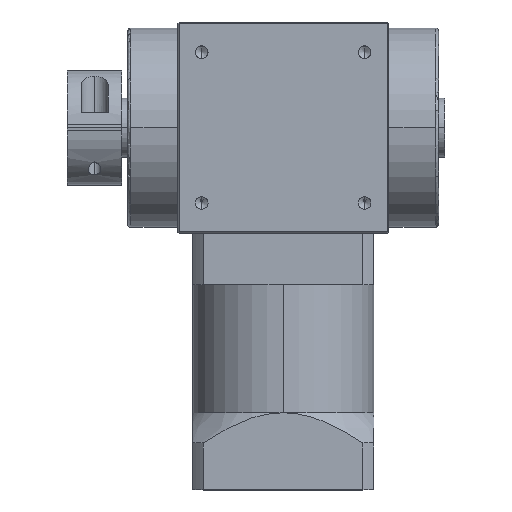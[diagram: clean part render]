
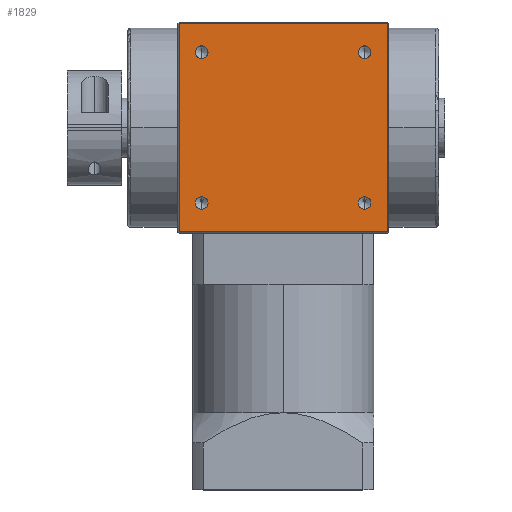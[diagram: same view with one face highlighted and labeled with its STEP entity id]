
A CAD part, top view. The second image highlights one B-rep face of the part: STEP entity #1829.
In plain terms, the highlighted planar face has unit normal (0, 0, 1).
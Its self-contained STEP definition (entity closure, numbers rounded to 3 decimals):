
#94 = VERTEX_POINT ( 'NONE', #9694 ) ;
#278 = CIRCLE ( 'NONE', #10368, 2.1 ) ;
#430 = VECTOR ( 'NONE', #11035, 1000. ) ;
#514 = VERTEX_POINT ( 'NONE', #6588 ) ;
#603 = DIRECTION ( 'NONE',  ( 1., 0., 0. ) ) ;
#635 = FACE_BOUND ( 'NONE', #8337, .T. ) ;
#678 = EDGE_CURVE ( 'NONE', #6300, #8077, #1239, .T. ) ;
#746 = ORIENTED_EDGE ( 'NONE', *, *, #678, .T. ) ;
#778 = VERTEX_POINT ( 'NONE', #10912 ) ;
#821 = CIRCLE ( 'NONE', #6997, 2.1 ) ;
#1104 = DIRECTION ( 'NONE',  ( 0., 0., 1. ) ) ;
#1195 = DIRECTION ( 'NONE',  ( 0., 0., -1. ) ) ;
#1239 = LINE ( 'NONE', #2503, #1570 ) ;
#1293 = FACE_BOUND ( 'NONE', #4619, .T. ) ;
#1461 = DIRECTION ( 'NONE',  ( 0., 0., 1. ) ) ;
#1570 = VECTOR ( 'NONE', #2571, 1000. ) ;
#1829 = ADVANCED_FACE ( 'NONE', ( #3618, #7235, #635, #1293, #3130 ), #7162, .F. ) ;
#2028 = CARTESIAN_POINT ( 'NONE',  ( 27., -25., 35. ) ) ;
#2260 = CARTESIAN_POINT ( 'NONE',  ( -27., 22.9, 35. ) ) ;
#2390 = EDGE_CURVE ( 'NONE', #94, #514, #5365, .T. ) ;
#2444 = CIRCLE ( 'NONE', #7335, 2.1 ) ;
#2503 = CARTESIAN_POINT ( 'NONE',  ( 34.5, 0., 35. ) ) ;
#2520 = VECTOR ( 'NONE', #3705, 1000. ) ;
#2571 = DIRECTION ( 'NONE',  ( 0., 1., 0. ) ) ;
#2650 = VERTEX_POINT ( 'NONE', #10806 ) ;
#2684 = ORIENTED_EDGE ( 'NONE', *, *, #3021, .F. ) ;
#2740 = EDGE_CURVE ( 'NONE', #778, #6300, #7420, .T. ) ;
#2766 = CIRCLE ( 'NONE', #4014, 2.1 ) ;
#2847 = EDGE_LOOP ( 'NONE', ( #746, #5522, #3287, #3300 ) ) ;
#2851 = CARTESIAN_POINT ( 'NONE',  ( -34.5, 0., 35. ) ) ;
#2921 = DIRECTION ( 'NONE',  ( 0., -1., 0. ) ) ;
#3021 = EDGE_CURVE ( 'NONE', #514, #94, #2444, .T. ) ;
#3130 = FACE_BOUND ( 'NONE', #7005, .T. ) ;
#3169 = ORIENTED_EDGE ( 'NONE', *, *, #10827, .F. ) ;
#3204 = CARTESIAN_POINT ( 'NONE',  ( 0., -34.5, 35. ) ) ;
#3287 = ORIENTED_EDGE ( 'NONE', *, *, #9524, .T. ) ;
#3300 = ORIENTED_EDGE ( 'NONE', *, *, #2740, .T. ) ;
#3302 = CARTESIAN_POINT ( 'NONE',  ( 27., -27.1, 35. ) ) ;
#3618 = FACE_OUTER_BOUND ( 'NONE', #2847, .T. ) ;
#3652 = CARTESIAN_POINT ( 'NONE',  ( -27., 27.1, 35. ) ) ;
#3705 = DIRECTION ( 'NONE',  ( 0., -1., 0. ) ) ;
#4014 = AXIS2_PLACEMENT_3D ( 'NONE', #9525, #4327, #10389 ) ;
#4226 = DIRECTION ( 'NONE',  ( 0., 0., 1. ) ) ;
#4327 = DIRECTION ( 'NONE',  ( 0., 0., 1. ) ) ;
#4380 = EDGE_LOOP ( 'NONE', ( #3169, #7923 ) ) ;
#4413 = CARTESIAN_POINT ( 'NONE',  ( -27., 25., 35. ) ) ;
#4506 = CARTESIAN_POINT ( 'NONE',  ( 27., -25., 35. ) ) ;
#4579 = CARTESIAN_POINT ( 'NONE',  ( -27., -25., 35. ) ) ;
#4619 = EDGE_LOOP ( 'NONE', ( #6538, #2684 ) ) ;
#4961 = CARTESIAN_POINT ( 'NONE',  ( 27., 22.9, 35. ) ) ;
#4966 = CIRCLE ( 'NONE', #5341, 2.1 ) ;
#5022 = AXIS2_PLACEMENT_3D ( 'NONE', #6363, #1195, #7223 ) ;
#5024 = LINE ( 'NONE', #6722, #430 ) ;
#5088 = EDGE_CURVE ( 'NONE', #8077, #7497, #5024, .T. ) ;
#5226 = EDGE_CURVE ( 'NONE', #8079, #10773, #9635, .T. ) ;
#5269 = DIRECTION ( 'NONE',  ( 0., -1., 0. ) ) ;
#5299 = ORIENTED_EDGE ( 'NONE', *, *, #7120, .F. ) ;
#5341 = AXIS2_PLACEMENT_3D ( 'NONE', #4506, #10577, #5361 ) ;
#5361 = DIRECTION ( 'NONE',  ( 0., -1., 0. ) ) ;
#5365 = CIRCLE ( 'NONE', #8825, 2.1 ) ;
#5375 = VECTOR ( 'NONE', #603, 1000. ) ;
#5425 = ORIENTED_EDGE ( 'NONE', *, *, #6372, .F. ) ;
#5444 = DIRECTION ( 'NONE',  ( 0., -1., 0. ) ) ;
#5522 = ORIENTED_EDGE ( 'NONE', *, *, #5088, .T. ) ;
#6275 = CARTESIAN_POINT ( 'NONE',  ( 27., 25., 35. ) ) ;
#6300 = VERTEX_POINT ( 'NONE', #7995 ) ;
#6363 = CARTESIAN_POINT ( 'NONE',  ( 0., 0., 35. ) ) ;
#6372 = EDGE_CURVE ( 'NONE', #2650, #8226, #821, .T. ) ;
#6538 = ORIENTED_EDGE ( 'NONE', *, *, #2390, .F. ) ;
#6588 = CARTESIAN_POINT ( 'NONE',  ( -27., -22.9, 35. ) ) ;
#6629 = CARTESIAN_POINT ( 'NONE',  ( -27., 25., 35. ) ) ;
#6722 = CARTESIAN_POINT ( 'NONE',  ( 0., 34.5, 35. ) ) ;
#6732 = CIRCLE ( 'NONE', #9418, 2.1 ) ;
#6967 = EDGE_CURVE ( 'NONE', #9327, #7474, #4966, .T. ) ;
#6997 = AXIS2_PLACEMENT_3D ( 'NONE', #6275, #1104, #7142 ) ;
#7005 = EDGE_LOOP ( 'NONE', ( #7388, #5299 ) ) ;
#7085 = LINE ( 'NONE', #2851, #2520 ) ;
#7120 = EDGE_CURVE ( 'NONE', #7474, #9327, #6732, .T. ) ;
#7142 = DIRECTION ( 'NONE',  ( 0., -1., 0. ) ) ;
#7162 = PLANE ( 'NONE',  #5022 ) ;
#7223 = DIRECTION ( 'NONE',  ( -1., 0., 0. ) ) ;
#7235 = FACE_BOUND ( 'NONE', #4380, .T. ) ;
#7335 = AXIS2_PLACEMENT_3D ( 'NONE', #9408, #4226, #10277 ) ;
#7388 = ORIENTED_EDGE ( 'NONE', *, *, #6967, .F. ) ;
#7420 = LINE ( 'NONE', #3204, #5375 ) ;
#7474 = VERTEX_POINT ( 'NONE', #10723 ) ;
#7487 = DIRECTION ( 'NONE',  ( 0., -1., 0. ) ) ;
#7497 = VERTEX_POINT ( 'NONE', #10787 ) ;
#7923 = ORIENTED_EDGE ( 'NONE', *, *, #5226, .F. ) ;
#7995 = CARTESIAN_POINT ( 'NONE',  ( 34.5, -34.5, 35. ) ) ;
#8068 = DIRECTION ( 'NONE',  ( 0., 0., 1. ) ) ;
#8077 = VERTEX_POINT ( 'NONE', #10477 ) ;
#8079 = VERTEX_POINT ( 'NONE', #3652 ) ;
#8226 = VERTEX_POINT ( 'NONE', #4961 ) ;
#8337 = EDGE_LOOP ( 'NONE', ( #10270, #5425 ) ) ;
#8825 = AXIS2_PLACEMENT_3D ( 'NONE', #4579, #10644, #5444 ) ;
#9141 = AXIS2_PLACEMENT_3D ( 'NONE', #4413, #10478, #5269 ) ;
#9327 = VERTEX_POINT ( 'NONE', #3302 ) ;
#9408 = CARTESIAN_POINT ( 'NONE',  ( -27., -25., 35. ) ) ;
#9418 = AXIS2_PLACEMENT_3D ( 'NONE', #2028, #8068, #2921 ) ;
#9524 = EDGE_CURVE ( 'NONE', #7497, #778, #7085, .T. ) ;
#9525 = CARTESIAN_POINT ( 'NONE',  ( 27., 25., 35. ) ) ;
#9635 = CIRCLE ( 'NONE', #9141, 2.1 ) ;
#9694 = CARTESIAN_POINT ( 'NONE',  ( -27., -27.1, 35. ) ) ;
#10270 = ORIENTED_EDGE ( 'NONE', *, *, #10541, .F. ) ;
#10277 = DIRECTION ( 'NONE',  ( 0., -1., 0. ) ) ;
#10368 = AXIS2_PLACEMENT_3D ( 'NONE', #6629, #1461, #7487 ) ;
#10389 = DIRECTION ( 'NONE',  ( 0., -1., 0. ) ) ;
#10477 = CARTESIAN_POINT ( 'NONE',  ( 34.5, 34.5, 35. ) ) ;
#10478 = DIRECTION ( 'NONE',  ( 0., 0., 1. ) ) ;
#10541 = EDGE_CURVE ( 'NONE', #8226, #2650, #2766, .T. ) ;
#10577 = DIRECTION ( 'NONE',  ( 0., 0., 1. ) ) ;
#10644 = DIRECTION ( 'NONE',  ( 0., 0., 1. ) ) ;
#10723 = CARTESIAN_POINT ( 'NONE',  ( 27., -22.9, 35. ) ) ;
#10773 = VERTEX_POINT ( 'NONE', #2260 ) ;
#10787 = CARTESIAN_POINT ( 'NONE',  ( -34.5, 34.5, 35. ) ) ;
#10806 = CARTESIAN_POINT ( 'NONE',  ( 27., 27.1, 35. ) ) ;
#10827 = EDGE_CURVE ( 'NONE', #10773, #8079, #278, .T. ) ;
#10912 = CARTESIAN_POINT ( 'NONE',  ( -34.5, -34.5, 35. ) ) ;
#11035 = DIRECTION ( 'NONE',  ( -1., 0., 0. ) ) ;
